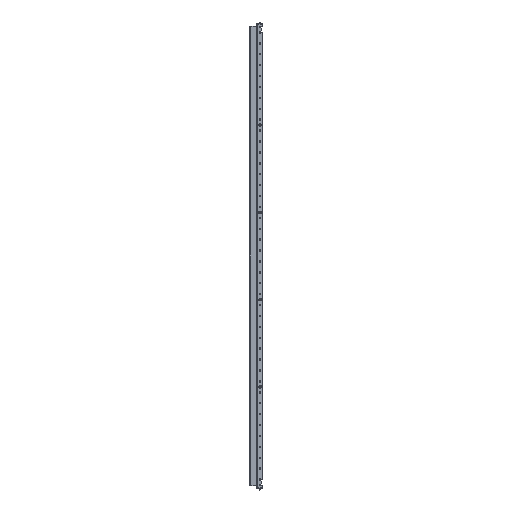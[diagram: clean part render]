
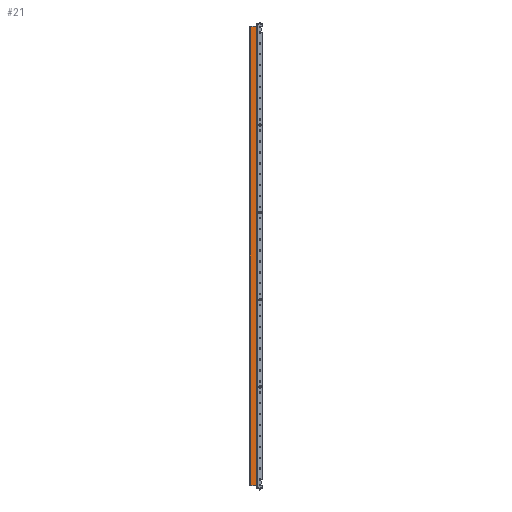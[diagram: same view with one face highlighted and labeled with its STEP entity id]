
A CAD part, front view. The second image highlights one B-rep face of the part: STEP entity #21.
In plain terms, the highlighted planar face has unit normal (0, -1, 0).
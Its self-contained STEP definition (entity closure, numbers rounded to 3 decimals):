
#21 = ADVANCED_FACE ( 'NONE', ( #5603 ), #18479, .F. ) ;
#753 = DIRECTION ( 'NONE',  ( 1., 0., 0. ) ) ;
#845 = VECTOR ( 'NONE', #6752, 1000. ) ;
#3753 = CARTESIAN_POINT ( 'NONE',  ( -31.293, -9.122, 3078. ) ) ;
#3886 = ORIENTED_EDGE ( 'NONE', *, *, #79164, .T. ) ;
#5213 = CARTESIAN_POINT ( 'NONE',  ( -28.193, -9.122, 3090.5 ) ) ;
#5393 = CARTESIAN_POINT ( 'NONE',  ( 2.307, -9.122, 976. ) ) ;
#5445 = EDGE_CURVE ( 'NONE', #70738, #38039, #28802, .T. ) ;
#5595 = CARTESIAN_POINT ( 'NONE',  ( -26.493, -9.122, 3078. ) ) ;
#5603 = FACE_OUTER_BOUND ( 'NONE', #50117, .T. ) ;
#5732 = ORIENTED_EDGE ( 'NONE', *, *, #75994, .F. ) ;
#6752 = DIRECTION ( 'NONE',  ( -1., 0., 0. ) ) ;
#9120 = ORIENTED_EDGE ( 'NONE', *, *, #59180, .T. ) ;
#10568 = ORIENTED_EDGE ( 'NONE', *, *, #21900, .F. ) ;
#12874 = LINE ( 'NONE', #55933, #69121 ) ;
#13020 = DIRECTION ( 'NONE',  ( -1., 0., 0. ) ) ;
#14863 = ORIENTED_EDGE ( 'NONE', *, *, #43699, .T. ) ;
#16989 = CARTESIAN_POINT ( 'NONE',  ( 2.307, -9.122, 3090.5 ) ) ;
#18417 = LINE ( 'NONE', #56284, #845 ) ;
#18479 = PLANE ( 'NONE',  #21243 ) ;
#20439 = VERTEX_POINT ( 'NONE', #5393 ) ;
#20556 = LINE ( 'NONE', #57210, #37098 ) ;
#21243 = AXIS2_PLACEMENT_3D ( 'NONE', #5213, #42685, #30193 ) ;
#21589 = VERTEX_POINT ( 'NONE', #40525 ) ;
#21900 = EDGE_CURVE ( 'NONE', #21589, #23724, #53267, .T. ) ;
#23724 = VERTEX_POINT ( 'NONE', #55333 ) ;
#25908 = CARTESIAN_POINT ( 'NONE',  ( 0.607, -9.122, 976. ) ) ;
#28622 = LINE ( 'NONE', #77374, #79255 ) ;
#28724 = DIRECTION ( 'NONE',  ( 1., 0., 0. ) ) ;
#28802 = LINE ( 'NONE', #52165, #64955 ) ;
#29072 = VECTOR ( 'NONE', #28724, 1000. ) ;
#30193 = DIRECTION ( 'NONE',  ( 0., 0., 1. ) ) ;
#32088 = CARTESIAN_POINT ( 'NONE',  ( -29.693, -9.122, 976. ) ) ;
#33514 = CARTESIAN_POINT ( 'NONE',  ( -26.493, -9.122, 976. ) ) ;
#35658 = CARTESIAN_POINT ( 'NONE',  ( -29.693, -9.122, 3078. ) ) ;
#36414 = EDGE_CURVE ( 'NONE', #21589, #49297, #18417, .T. ) ;
#37098 = VECTOR ( 'NONE', #74556, 1000. ) ;
#38039 = VERTEX_POINT ( 'NONE', #32088 ) ;
#40525 = CARTESIAN_POINT ( 'NONE',  ( 0.607, -9.122, 3078. ) ) ;
#42365 = ORIENTED_EDGE ( 'NONE', *, *, #36414, .T. ) ;
#42437 = LINE ( 'NONE', #56087, #61637 ) ;
#42685 = DIRECTION ( 'NONE',  ( 0., 1., 0. ) ) ;
#42756 = LINE ( 'NONE', #16989, #61798 ) ;
#43699 = EDGE_CURVE ( 'NONE', #70738, #75661, #20556, .T. ) ;
#49297 = VERTEX_POINT ( 'NONE', #5595 ) ;
#50117 = EDGE_LOOP ( 'NONE', ( #3886, #79059, #14863, #9120, #5732, #10568, #42365, #53031 ) ) ;
#51145 = VERTEX_POINT ( 'NONE', #35658 ) ;
#52165 = CARTESIAN_POINT ( 'NONE',  ( -31.293, -9.122, 976. ) ) ;
#53031 = ORIENTED_EDGE ( 'NONE', *, *, #73172, .T. ) ;
#53267 = LINE ( 'NONE', #3753, #29072 ) ;
#55333 = CARTESIAN_POINT ( 'NONE',  ( 2.307, -9.122, 3078. ) ) ;
#55933 = CARTESIAN_POINT ( 'NONE',  ( -28.193, -9.122, 976. ) ) ;
#56087 = CARTESIAN_POINT ( 'NONE',  ( -28.193, -9.122, 3078. ) ) ;
#56284 = CARTESIAN_POINT ( 'NONE',  ( -28.193, -9.122, 3078. ) ) ;
#57210 = CARTESIAN_POINT ( 'NONE',  ( -28.193, -9.122, 976. ) ) ;
#58623 = DIRECTION ( 'NONE',  ( -1., 0., 0. ) ) ;
#59180 = EDGE_CURVE ( 'NONE', #75661, #20439, #12874, .T. ) ;
#61637 = VECTOR ( 'NONE', #13020, 1000. ) ;
#61798 = VECTOR ( 'NONE', #67309, 1000. ) ;
#64955 = VECTOR ( 'NONE', #58623, 1000. ) ;
#67309 = DIRECTION ( 'NONE',  ( 0., 0., -1. ) ) ;
#69121 = VECTOR ( 'NONE', #753, 1000. ) ;
#70738 = VERTEX_POINT ( 'NONE', #33514 ) ;
#71320 = DIRECTION ( 'NONE',  ( 0., 0., -1. ) ) ;
#73172 = EDGE_CURVE ( 'NONE', #49297, #51145, #42437, .T. ) ;
#74556 = DIRECTION ( 'NONE',  ( 1., 0., 0. ) ) ;
#75661 = VERTEX_POINT ( 'NONE', #25908 ) ;
#75994 = EDGE_CURVE ( 'NONE', #23724, #20439, #42756, .T. ) ;
#77374 = CARTESIAN_POINT ( 'NONE',  ( -29.693, -9.122, 3090.5 ) ) ;
#79059 = ORIENTED_EDGE ( 'NONE', *, *, #5445, .F. ) ;
#79164 = EDGE_CURVE ( 'NONE', #51145, #38039, #28622, .T. ) ;
#79255 = VECTOR ( 'NONE', #71320, 1000. ) ;
